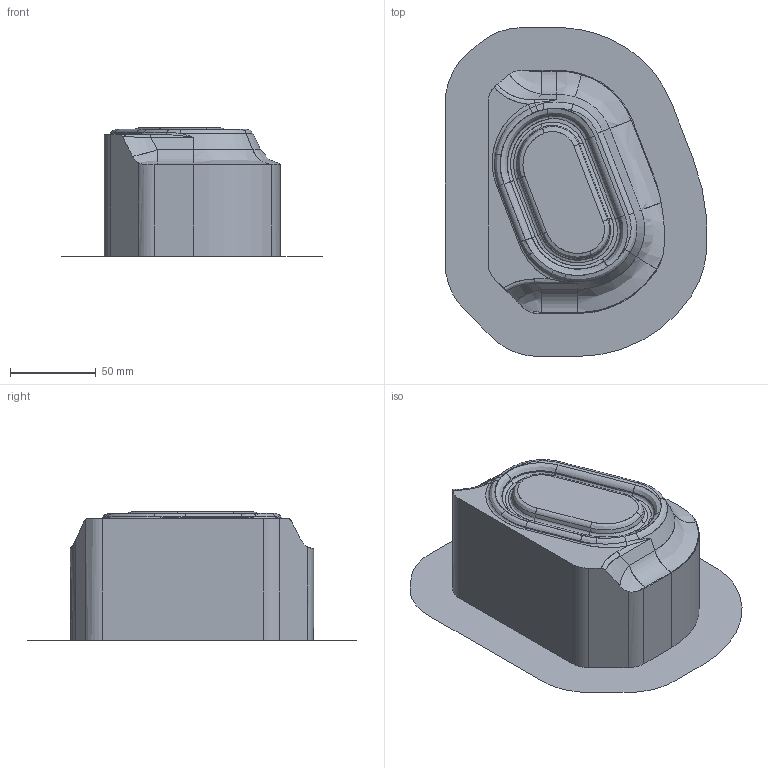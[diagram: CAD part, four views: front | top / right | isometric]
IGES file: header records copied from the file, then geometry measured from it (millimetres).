
Global section: file name: 1840P36B.igs; native system: THINKDESIGN 2005.1.101; preprocessor: PDElib Version v4.4, created Mon 02/23/2004 ; date: 20060503.085437; units: millimetre
Bounding box: 152.6 x 191.8 x 75 mm (x, y, z)
Surface area: 52842.1 mm2 (no closed solid volume)
Topology: 0 solids, 0 shells, 102 faces, 509 edges, 507 vertices
Faces by surface type: bspline 75, extrusion 27
